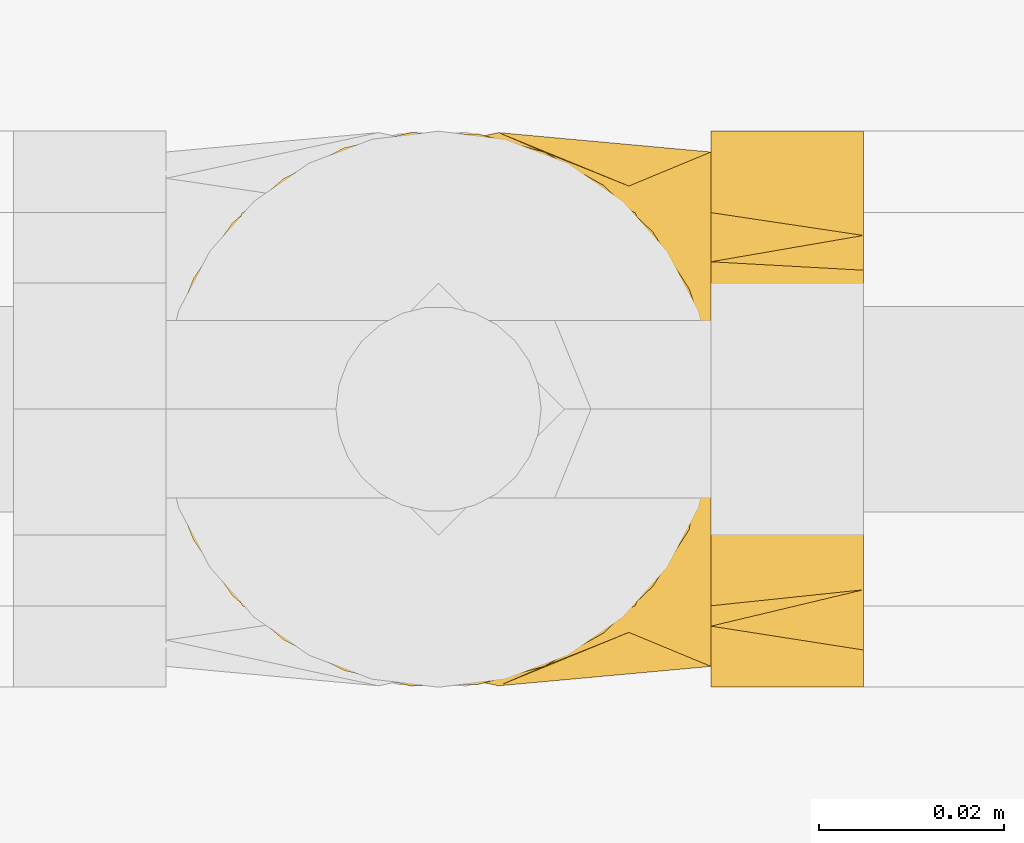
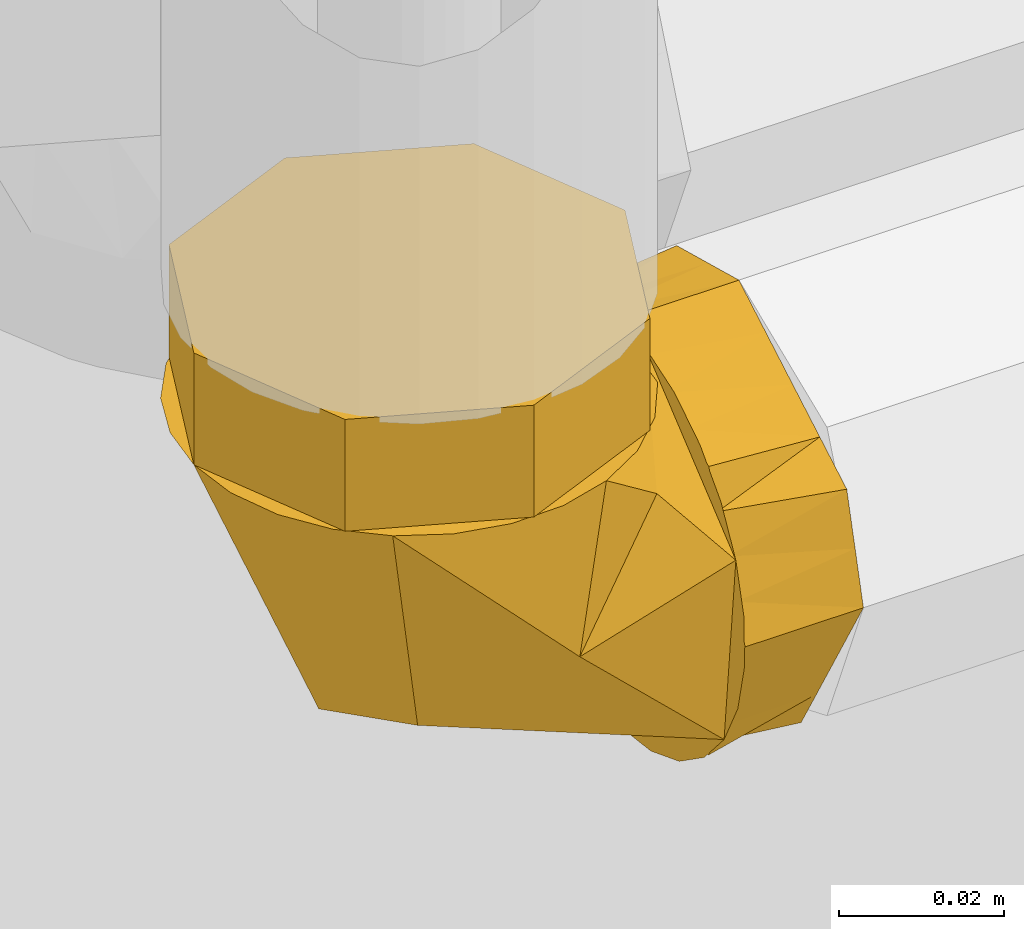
# One storey, part 155 of 652: 1 covering.
"""IFC2X3 building model written with IfcOpenShell, lengths in millimetres."""

from ifc_helpers import new_model, entity, si_unit, converted_unit, direction, frame, origin, place, context, subcontext, project, spatial, face_set, surface_model, material, type_object, element, save


model = new_model("IFC2X3")

# Units and contexts
model_context = context("Model", 3, precision=0.01, world=frame((0.0, 0.0, 308426.39999999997)), true_north=direction((6.123233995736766e-17, 1.0)))
plan_context = context("Plan", 3, precision=0.01, world=frame((0.0, 0.0, 308426.39999999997)), true_north=direction((6.123233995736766e-17, 1.0)))
body_context = subcontext(model_context, "Body", "Model", "MODEL_VIEW")
ifc_project = project(units=[si_unit("LENGTHUNIT", "METRE", prefix="MILLI"), si_unit("AREAUNIT", "SQUARE_METRE"), si_unit("VOLUMEUNIT", "CUBIC_METRE"), converted_unit("PLANEANGLEUNIT", "DEGREE", entity("IfcPlaneAngleMeasure", 0.017453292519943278), si_unit("PLANEANGLEUNIT", "RADIAN"), dimensions=[0, 0, 0, 0, 0, 0, 0])], contexts=[model_context, plan_context])

# Site, building, storey
site_placement = place(None, origin())
site = spatial("IfcSite", under=ifc_project, at=site_placement, Name="Default", CompositionType="ELEMENT")
building_placement = place(site_placement, origin())
building = spatial("IfcBuilding", under=site, at=building_placement, CompositionType="ELEMENT")
storey_placement = place(building_placement, frame((0.0, 0.0, 1730.6999999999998)))
storey = spatial("IfcBuildingStorey", under=building, at=storey_placement, Name="EG_Produktion_FFB", CompositionType="ELEMENT", Elevation=1730.6999999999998)

# Covering
ifc_material = material(Name="Dämmung - Armaflex-Schlauch")
covering_type = type_object("IfcCoveringType", Name="Rohrdämmung außen:Armaflex-Schlauch", PredefinedType="INSULATION")
covering_placement = place(storey_placement, frame((19438.292227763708, 60968.29222776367, 3946.017250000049)))
element("IfcCovering", 1, at=covering_placement, inside=storey, type_object=covering_type, material=ifc_material, Name="Rohrdämmung außen:Armaflex-Schlauch", ObjectType="Rohrdämmung außen:Armaflex-Schlauch", PredefinedType="INSULATION", context=body_context, shape_type="SurfaceModel", body=[
    surface_model("IfcFaceBasedSurfaceModel", [(61.21227223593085, 37.728331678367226, -16.51275000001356), (58.87053868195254, 18.70981950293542, -16.51275000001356), (54.90616939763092, 12.508891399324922, -16.51275000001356), (49.55598588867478, 7.4548564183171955, -16.512750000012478), (43.139594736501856, 3.8496299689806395, -16.512750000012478), (36.0402951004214, 1.9085792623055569, -16.512750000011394), (28.682181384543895, 1.7476578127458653, -16.512750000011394), (21.504808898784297, 3.37647866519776, -16.512750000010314), (14.936935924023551, 6.697740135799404, -16.512750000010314), (9.370910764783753, 11.513038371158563, -16.51275000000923), (5.139233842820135, 17.53471949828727, -16.51275000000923), (2.4946949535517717, 24.40306334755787, -16.51275000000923), (1.5952722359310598, 31.70777223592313, -16.51275000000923), (2.4946949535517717, 39.01248112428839, -16.51275000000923), (5.139233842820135, 45.880824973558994, -16.51275000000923), (9.370910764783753, 51.902506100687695, -16.51275000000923), (14.936935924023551, 56.71780433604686, -16.512750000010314), (21.504808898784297, 60.0390658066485, -16.512750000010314), (28.682181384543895, 61.6678866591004, -16.512750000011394), (36.0402951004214, 61.50696520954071, -16.512750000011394), (43.139594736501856, 59.565914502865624, -16.512750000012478), (49.55598588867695, 55.96068805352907, -16.512750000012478), (54.90616939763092, 50.906653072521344, -16.51275000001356), (58.87053868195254, 44.70572496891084, -16.51275000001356), (61.21227223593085, 25.687212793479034, -16.51275000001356), (61.21227223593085, 44.70572496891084, -18.85448355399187), (61.21227223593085, 50.906653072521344, -22.81885283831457), (61.21227223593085, 55.96068805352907, -28.169036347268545), (61.21227223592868, 59.565914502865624, -34.58542749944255), (61.21227223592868, 61.50696520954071, -41.68472713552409), (61.21227223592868, 61.6678866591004, -49.04284085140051), (61.21227223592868, 60.0390658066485, -56.22021333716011), (61.21227223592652, 56.71780433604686, -62.78808631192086), (61.21227223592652, 51.902506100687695, -68.35411147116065), (61.21227223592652, 45.880824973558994, -72.5857883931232), (61.21227223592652, 39.01248112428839, -75.23032728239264), (61.21227223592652, 31.70777223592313, -76.12975000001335), (61.21227223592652, 24.40306334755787, -75.23032728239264), (61.21227223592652, 17.53471949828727, -72.5857883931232), (61.21227223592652, 11.513038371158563, -68.35411147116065), (61.21227223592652, 6.697740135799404, -62.78808631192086), (61.21227223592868, 3.37647866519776, -56.22021333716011), (61.21227223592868, 1.7476578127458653, -49.04284085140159), (61.21227223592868, 1.9085792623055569, -41.68472713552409), (61.21227223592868, 3.8496299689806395, -34.58542749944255), (61.21227223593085, 7.4548564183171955, -28.169036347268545), (61.21227223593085, 12.508891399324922, -22.81885283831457), (61.21227223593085, 18.70981950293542, -18.85448355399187), (52.31808717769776, 55.880599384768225, -23.8779906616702), (61.21173036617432, 48.44849489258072, -25.38313134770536), (52.34134157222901, 48.44849489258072, -16.512742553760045), (21.25486696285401, 51.80177858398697, -49.683392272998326), (8.14403932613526, 43.98365114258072, -16.512742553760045), (38.20964601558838, 61.66629274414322, -39.51482690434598), (61.21173036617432, 58.14092653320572, -48.686941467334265), (19.056163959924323, 31.709981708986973, -58.668308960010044), (61.21173036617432, 44.21154420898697, -69.45892938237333), (29.038112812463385, 58.14092653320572, -16.512742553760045), (52.31808717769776, 7.534713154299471, -23.8779906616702), (52.34134157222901, 14.966817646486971, -16.512742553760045), (21.25486696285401, 11.61353395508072, -49.683392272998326), (8.14403932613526, 19.43166139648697, -16.512742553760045), (61.21173036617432, 14.766829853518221, -25.548818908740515), (38.20964601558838, 1.7490197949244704, -39.51482690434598), (61.21173036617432, 19.20376833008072, -69.45892938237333), (29.038112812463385, 5.27438600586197, -16.512742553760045), (61.21173036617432, 5.27438600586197, -48.686941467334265), (8.210082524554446, 47.677336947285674, 0.0), (6.005145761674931, 42.35414871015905, 0.0), (3.8002089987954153, 37.03096047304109, 0.0), (1.5952722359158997, 31.70777223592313, 0.0), (4.4380643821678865, 24.844664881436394, 0.0), (6.005145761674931, 21.06139576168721, 0.0), (8.210082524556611, 15.738207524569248, 0.0), (10.415019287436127, 10.415019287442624, 0.0), (15.738207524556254, 8.21008252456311, 0.0), (21.061395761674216, 6.005145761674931, 0.0), (26.384583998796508, 3.800208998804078, 0.0), (31.707772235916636, 1.5952722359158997, 0.0), (38.570879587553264, 4.438064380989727, 0.0), (42.35414871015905, 6.005145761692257, 0.0), (47.67733694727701, 8.21008252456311, 0.0), (53.00052518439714, 10.415019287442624, 0.0), (55.20546194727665, 15.738207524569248, 0.0), (57.41039871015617, 21.061395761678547, 0.0), (59.61533547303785, 26.384583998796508, 0.0), (61.82027223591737, 31.70777223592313, 0.0), (58.977480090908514, 38.57087958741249, 0.0), (57.41039871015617, 42.35414871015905, 0.0), (55.20546194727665, 47.677336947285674, 0.0), (53.00052518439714, 53.000525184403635, 0.0), (47.67733694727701, 55.205461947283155, 0.0), (42.354148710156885, 57.41039871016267, 0.0), (37.030960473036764, 59.61533547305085, 0.0), (31.707772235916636, 61.8202722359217, 0.0), (24.844664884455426, 58.97748009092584, 0.0), (21.06139576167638, 57.41039871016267, 0.0), (15.738207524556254, 55.205461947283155, 0.0), (10.415019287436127, 53.000525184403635, 0.0), (31.707772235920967, 1.5952722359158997, -16.512750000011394), (26.38458399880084, 3.800208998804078, -16.51275000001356), (21.061395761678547, 6.005145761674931, -16.51275000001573), (15.738207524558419, 8.210082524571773, -16.51275000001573), (10.415019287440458, 10.415019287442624, -16.512750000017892), (7.280856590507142, 17.98155737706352, -16.512750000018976), (4.438064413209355, 24.844664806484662, -16.51275000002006), (1.5952722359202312, 31.70777223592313, -16.51275000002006), (3.800208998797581, 37.03096047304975, -16.51275000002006), (6.005145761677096, 42.35414871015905, -16.512750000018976), (8.210082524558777, 47.677336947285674, -16.512750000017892), (10.415019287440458, 53.000525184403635, -16.512750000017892), (17.981557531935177, 56.13468794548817, -16.51275000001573), (24.84466488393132, 58.9774800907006, -16.51275000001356), (31.707772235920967, 61.8202722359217, -16.512750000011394), (37.03096047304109, 59.61533547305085, -16.512750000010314), (42.35414871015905, 57.41039871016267, -16.512750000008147), (47.67733694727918, 55.205461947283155, -16.512750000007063), (53.000525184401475, 53.000525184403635, -16.5127500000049), (56.134687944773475, 45.43398694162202, -16.5127500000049), (58.97748009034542, 38.57087958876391, -16.512750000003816), (61.8202722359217, 31.70777223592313, -16.512750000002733), (59.61533547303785, 26.38458399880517, -16.512750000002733), (57.41039871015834, 21.061395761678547, -16.5127500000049), (55.20546194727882, 15.738207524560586, -16.512750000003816), (53.000525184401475, 10.415019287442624, -16.5127500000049), (45.433986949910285, 7.280856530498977, -16.512750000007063), (38.57087959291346, 4.438064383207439, -16.51275000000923), (77.72502223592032, 31.70777223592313, -76.12975000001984), (77.72502223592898, 38.22731972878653, -72.36568750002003), (77.72502223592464, 44.74686722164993, -68.6016250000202), (77.72502223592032, 51.26641471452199, -64.83756250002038), (77.72502223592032, 57.78596220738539, -61.07350000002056), (77.72502223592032, 59.803117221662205, -53.54537500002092), (77.72502223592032, 61.8202722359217, -46.0172500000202), (77.72502223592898, 58.05620973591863, -39.497702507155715), (77.72502223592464, 54.292147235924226, -32.978155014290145), (77.72502223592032, 50.528084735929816, -26.458607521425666), (77.72502223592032, 46.764022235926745, -19.939060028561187), (77.72502223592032, 39.23589723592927, -17.921905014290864), (77.72502223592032, 31.70777223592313, -15.904750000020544), (77.72502223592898, 25.18822474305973, -19.668812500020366), (77.72502223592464, 18.668677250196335, -23.432875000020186), (77.72502223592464, 12.149129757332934, -27.196937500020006), (77.72502223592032, 5.629582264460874, -30.961000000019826), (77.72502223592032, 3.6124272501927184, -38.48912500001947), (77.72502223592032, 1.5952722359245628, -46.0172500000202), (77.72502223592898, 5.359334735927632, -52.53679749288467), (77.72502223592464, 9.12339723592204, -59.05634498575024), (77.72502223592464, 12.887459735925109, -65.57589247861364), (77.72502223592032, 16.651522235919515, -72.09543997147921), (77.72502223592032, 24.179647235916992, -74.11259498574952), (61.21227223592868, 31.70777223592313, -76.12975000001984), (61.21227223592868, 26.384583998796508, -73.92481323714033), (61.21227223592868, 21.06139576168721, -71.71987647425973), (61.21227223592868, 15.738207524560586, -69.51493971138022), (61.21227223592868, 10.415019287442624, -67.31000294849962), (61.21227223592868, 8.21008252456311, -61.986814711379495), (61.21227223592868, 6.005145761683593, -56.66362647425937), (61.21227223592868, 3.8002089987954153, -51.34043823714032), (61.21227223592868, 1.5952722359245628, -46.0172500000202), (61.21227223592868, 3.800208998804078, -40.69406176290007), (61.21227223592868, 6.005145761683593, -35.37087352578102), (61.21227223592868, 8.21008252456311, -30.047685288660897), (61.21227223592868, 10.415019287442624, -24.724497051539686), (61.21227223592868, 15.738207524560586, -22.519560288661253), (61.21227223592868, 21.06139576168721, -20.314623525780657), (61.21227223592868, 26.38458399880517, -18.109686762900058), (61.21227223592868, 31.70777223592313, -15.904750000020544), (61.21227223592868, 37.03096047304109, -18.109686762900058), (61.21227223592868, 42.35414871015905, -20.314623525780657), (61.21227223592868, 47.677336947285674, -22.519560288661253), (61.21227223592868, 53.000525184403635, -24.724497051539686), (61.21227223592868, 55.205461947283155, -30.047685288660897), (61.21227223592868, 57.41039871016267, -35.37087352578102), (61.21227223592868, 59.61533547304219, -40.69406176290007), (61.21227223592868, 61.8202722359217, -46.0172500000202), (61.21227223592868, 59.61533547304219, -51.34043823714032), (61.21227223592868, 57.41039871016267, -56.66362647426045), (61.21227223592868, 55.205461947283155, -61.986814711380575), (61.21227223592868, 53.000525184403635, -67.31000294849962), (61.21227223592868, 47.677336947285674, -69.51493971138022), (61.21227223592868, 42.35414871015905, -71.71987647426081), (61.21227223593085, 37.03096047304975, -73.92481323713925)], [face_set([[[0, 1, 2, 3, 4, 5, 6, 7, 8, 9, 10, 11, 12, 13, 14, 15, 16, 17, 18, 19, 20, 21, 22, 23]], [[24, 25, 26, 27, 28, 29, 30, 31, 32, 33, 34, 35, 36, 37, 38, 39, 40, 41, 42, 43, 44, 45, 46, 47]], [[48, 0, 49]], [[50, 48, 20]], [[51, 52, 16]], [[53, 20, 48]], [[53, 28, 54]], [[48, 49, 28]], [[32, 51, 53]], [[55, 51, 56]], [[28, 53, 48]], [[56, 36, 55]], [[55, 52, 51]], [[48, 50, 0]], [[55, 12, 52]], [[53, 16, 57, 20]], [[16, 53, 51]], [[54, 32, 53]], [[51, 32, 56]], [[58, 59, 4]], [[60, 61, 55]], [[24, 58, 62]], [[58, 4, 63]], [[8, 60, 63]], [[55, 64, 60]], [[24, 59, 58]], [[65, 8, 63, 4]], [[44, 58, 63]], [[58, 44, 62]], [[61, 60, 8]], [[61, 12, 55]], [[63, 40, 66]], [[40, 63, 60]], [[66, 44, 63]], [[64, 55, 36]], [[64, 40, 60]]]), face_set([[[67, 68, 69, 70, 71, 72, 73, 74, 75, 76, 77, 78, 79, 80, 81, 82, 83, 84, 85, 86, 87, 88, 89, 90, 91, 92, 93, 94, 95, 96, 97, 98]], [[99, 100, 101, 102, 103, 104, 105, 106, 107, 108, 109, 110, 111, 112, 113, 114, 115, 116, 117, 118, 119, 120, 121, 122, 123, 124, 125, 126]], [[105, 104, 103, 74, 73, 72, 71, 70, 106]], [[74, 103, 102, 101, 100, 99, 78, 77, 76, 75]], [[126, 125, 124, 82, 81, 80, 79, 78, 99]], [[82, 124, 123, 122, 121, 120, 86, 85, 84, 83]], [[119, 118, 117, 90, 89, 88, 87, 86, 120]], [[90, 117, 116, 115, 114, 113, 94, 93, 92, 91]], [[112, 111, 110, 98, 97, 96, 95, 94, 113]], [[98, 110, 109, 108, 107, 106, 70, 69, 68, 67]]]), face_set([[[127, 128, 129, 130, 131, 132, 133, 134, 135, 136, 137, 138, 139, 140, 141, 142, 143, 144, 145, 146, 147, 148, 149, 150]], [[151, 152, 153, 154, 155, 156, 157, 158, 159, 160, 161, 162, 163, 164, 165, 166, 167, 168, 169, 170, 171, 172, 173, 174, 175, 176, 177, 178, 179, 180, 181, 182]], [[170, 136, 171]], [[133, 174, 134]], [[174, 173, 134]], [[138, 169, 168]], [[168, 167, 139]], [[136, 170, 137]], [[135, 173, 172]], [[133, 175, 174]], [[173, 135, 134]], [[139, 138, 168]], [[172, 171, 136]], [[170, 169, 137]], [[138, 137, 169]], [[135, 172, 136]], [[178, 130, 179]], [[127, 182, 128]], [[182, 181, 128]], [[132, 177, 176]], [[176, 175, 133]], [[130, 178, 131]], [[129, 181, 180]], [[127, 151, 182]], [[181, 129, 128]], [[133, 132, 176]], [[180, 179, 130]], [[178, 177, 131]], [[132, 131, 177]], [[129, 180, 130]], [[154, 148, 155]], [[145, 158, 146]], [[158, 157, 146]], [[150, 153, 152]], [[152, 151, 127]], [[148, 154, 149]], [[147, 157, 156]], [[145, 159, 158]], [[157, 147, 146]], [[127, 150, 152]], [[156, 155, 148]], [[154, 153, 149]], [[150, 149, 153]], [[147, 156, 148]], [[162, 142, 163]], [[139, 166, 140]], [[166, 165, 140]], [[144, 161, 160]], [[160, 159, 145]], [[142, 162, 143]], [[141, 165, 164]], [[139, 167, 166]], [[165, 141, 140]], [[145, 144, 160]], [[164, 163, 142]], [[162, 161, 143]], [[144, 143, 161]], [[141, 164, 142]]])]),
])

save(model, "model.ifc")
